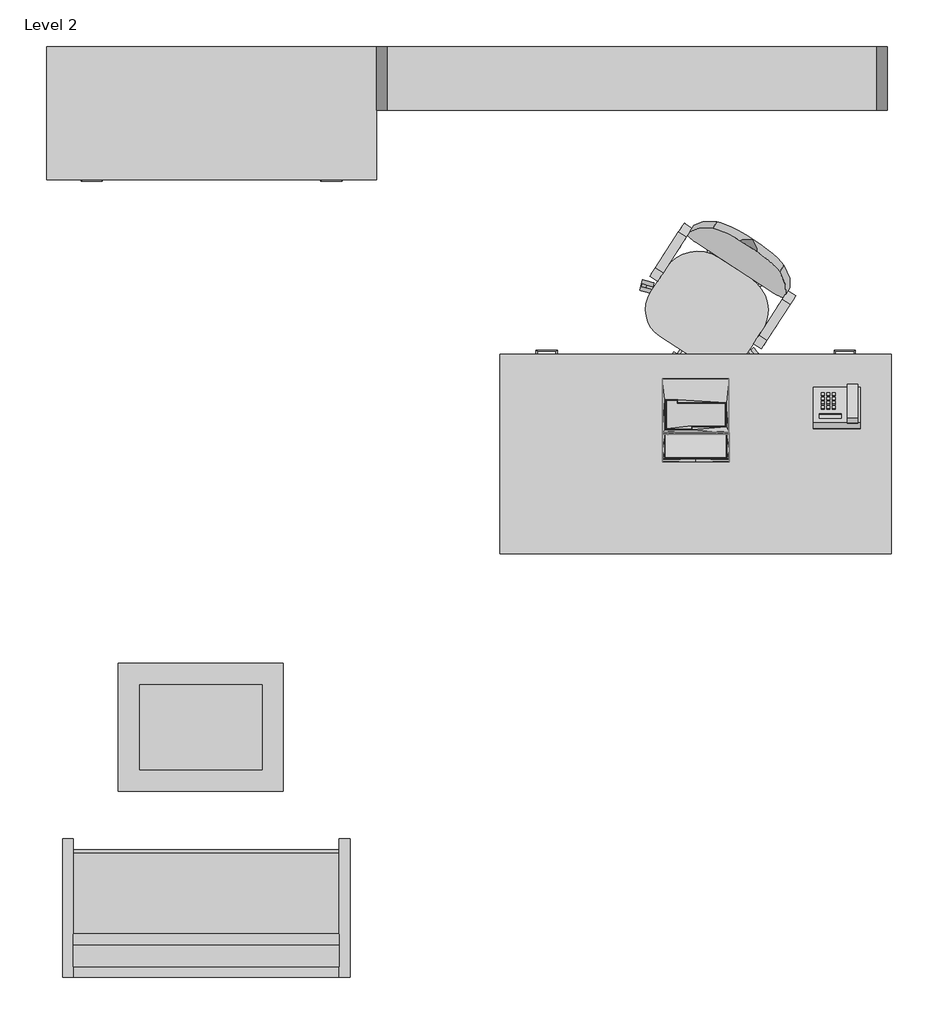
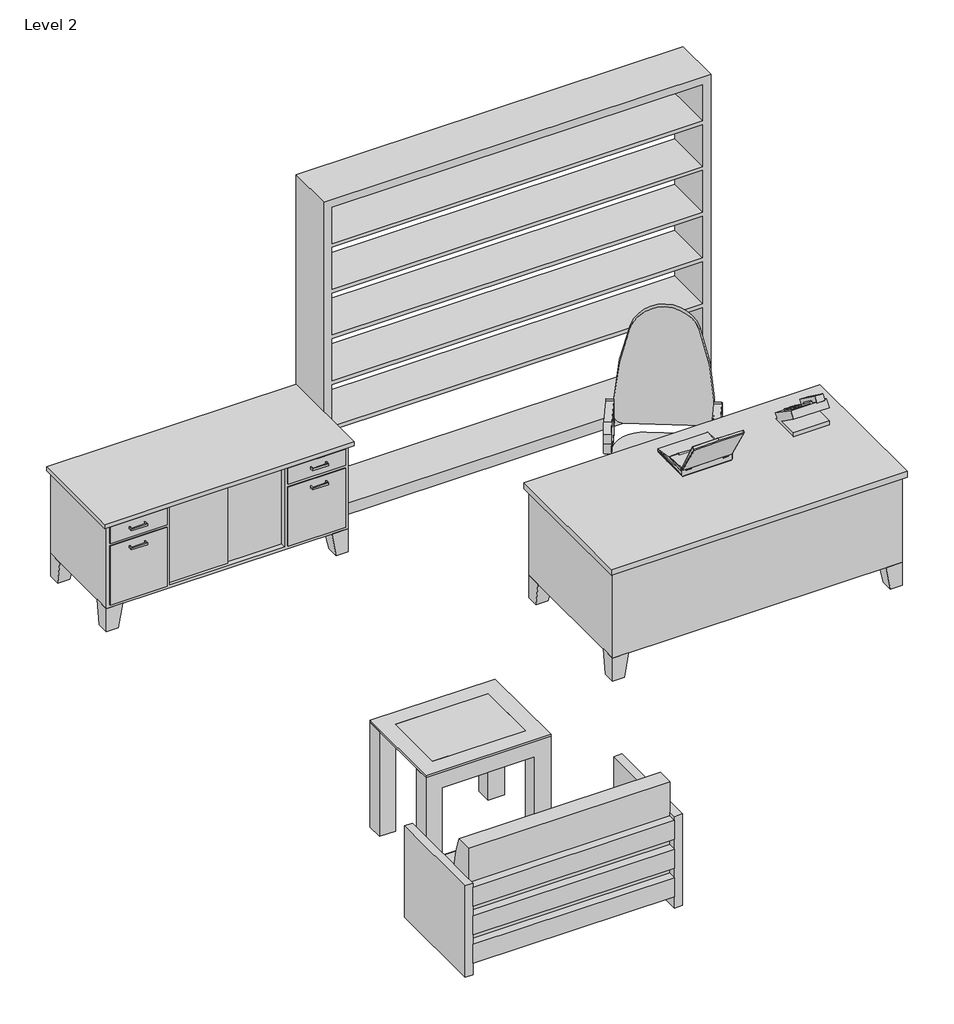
# One storey, incomplete: 6 furniture elements, 2 proxies.
"""IFC4 building model written with IfcOpenShell, lengths in millimetres."""

from ifc_helpers import new_model, si_unit, origin, place, context, project, spatial, transform, mapped, element, save
from components import entourage_0ad6723a, phone_phone_5230e7aa, chair_executive_chair_executive_8d69e98c, furniture_894c625b, furniture_2fc54265, furniture_b1da5ad0, furniture_22419f35, furniture_5f90431c

model = new_model("IFC4")

# Units and contexts
model_context = context("Model", 3, world=origin())
ifc_project = project(units=[si_unit("LENGTHUNIT", "METRE", prefix="MILLI")], contexts=[model_context])

# Site, building, storey
site = spatial("IfcSite", under=ifc_project)
building = spatial("IfcBuilding", under=site)
storey = spatial("IfcBuildingStorey", under=building, Name="Level 2", Elevation=3657.6)

# Proxies
placement = place(None, origin())
entourage_shape = entourage_0ad6723a(model_context)
element("IfcBuildingElementProxy", 1, Name="RPC Notebook Computer : RPC Notebook Computer", ObjectType="RPC Notebook Computer : RPC Notebook Computer", at=placement, inside=storey, context=model_context, shape_type="MappedRepresentation", body=[
    mapped(entourage_shape, transform((-52901.4856498, -14963.1103492, 4419.6), x_axis=(-1.0, 0.0, 0.0), y_axis=(0.0, -1.0, 0.0), z_axis=(0.0, 0.0, 1.0))),
])
phone_phone_shape = phone_phone_5230e7aa(model_context)
element("IfcBuildingElementProxy", 2, Name="Phone : Phone", ObjectType="Phone : Phone", at=placement, inside=storey, context=model_context, shape_type="MappedRepresentation", body=[
    mapped(phone_phone_shape, transform((-51981.0043036, -15147.0065782, 4419.6), x_axis=(1.0, 0.0, 0.0), y_axis=(0.0, 1.0, 0.0), z_axis=(0.0, 0.0, 1.0))),
])

# Furniture
chair_executive_chair_executive_shape = chair_executive_chair_executive_8d69e98c(model_context)
element("IfcFurniture", 3, ObjectType="Chair-Executive : Chair-Executive", at=placement, inside=storey, context=model_context, shape_type="MappedRepresentation", body=[
    mapped(chair_executive_chair_executive_shape, transform((-52699.1922211, -14498.6688157, 3657.6), x_axis=(-0.838670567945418, 0.5446390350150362, 0.0), y_axis=(-0.5446390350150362, -0.838670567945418, 0.0), z_axis=(0.0, 0.0, 1.0))),
])
furniture_shape = furniture_894c625b(model_context)
element("IfcFurniture", 4, ObjectType="Credenza : 60\" x 24\"", at=placement, inside=storey, context=model_context, shape_type="MappedRepresentation", body=[
    mapped(furniture_shape, transform((-55272.4299121, -13519.8906771, 3657.6), x_axis=(1.0, 0.0, 0.0), y_axis=(0.0, 1.0, 0.0), z_axis=(0.0, 0.0, 1.0))),
])
furniture_2_shape = furniture_2fc54265(model_context)
element("IfcFurniture", 5, ObjectType="Desk : 72\" x 36\"", at=placement, inside=storey, context=model_context, shape_type="MappedRepresentation", body=[
    mapped(furniture_2_shape, transform((-53815.8856498, -15610.8103492, 3657.6), x_axis=(1.0000000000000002, 0.0, 0.0), y_axis=(0.0, 1.0000000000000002, 0.0), z_axis=(0.0, 0.0, 1.0))),
])
furniture_3_shape = furniture_b1da5ad0(model_context)
element("IfcFurniture", 6, ObjectType="Shelving : 96\" x 12\" x 84\"", at=placement, inside=storey, context=model_context, shape_type="MappedRepresentation", body=[
    mapped(furniture_3_shape, transform((-53206.2856498, -13058.1103492, 3657.6), x_axis=(1.0, 0.0, 0.0), y_axis=(0.0, 1.0, 0.0), z_axis=(0.0, 0.0, 1.0))),
])
furniture_4_shape = furniture_22419f35(model_context)
element("IfcFurniture", 7, ObjectType="Sofa : 54\"", at=placement, inside=storey, context=model_context, shape_type="MappedRepresentation", body=[
    mapped(furniture_4_shape, transform((-55167.915158, -17174.6119184, 3657.6), x_axis=(-1.0, 0.0, 0.0), y_axis=(0.0, -1.0, 0.0), z_axis=(0.0, 0.0, 1.0))),
])
furniture_5_shape = furniture_5f90431c(model_context)
element("IfcFurniture", 8, ObjectType="Table-Coffee : 31\" x 28\" x 24\"", at=placement, inside=storey, context=model_context, shape_type="MappedRepresentation", body=[
    mapped(furniture_5_shape, transform((-55168.474572, -16475.4317834, 3657.6), x_axis=(0.0, 1.0, 0.0), y_axis=(-1.0, 0.0, 0.0), z_axis=(0.0, 0.0, 1.0))),
])

save(model, "model.ifc")
